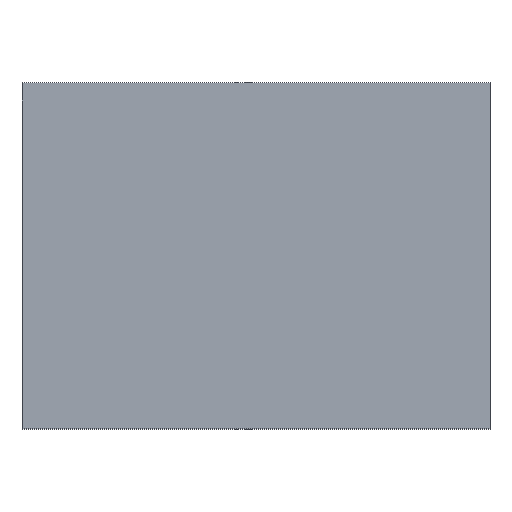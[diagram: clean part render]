
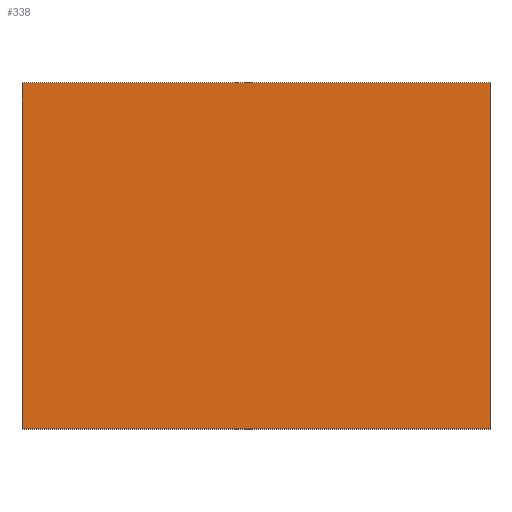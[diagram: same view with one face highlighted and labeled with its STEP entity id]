
A CAD part, top view. The second image highlights one B-rep face of the part: STEP entity #338.
In plain terms, the highlighted planar face has unit normal (0, 0, 1).
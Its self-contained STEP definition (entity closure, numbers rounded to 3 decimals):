
#24 = VERTEX_POINT('',#25);
#25 = CARTESIAN_POINT('',(629.5,0.5,-25.));
#32 = PLANE('',#33);
#33 = AXIS2_PLACEMENT_3D('',#34,#35,#36);
#34 = CARTESIAN_POINT('',(629.5,0.5,-30.));
#35 = DIRECTION('',(1.,0.,0.));
#36 = DIRECTION('',(0.,0.,1.));
#44 = PLANE('',#45);
#45 = AXIS2_PLACEMENT_3D('',#46,#47,#48);
#46 = CARTESIAN_POINT('',(629.5,0.5,-30.));
#47 = DIRECTION('',(0.,1.,0.));
#48 = DIRECTION('',(0.,0.,1.));
#85 = VERTEX_POINT('',#86);
#86 = CARTESIAN_POINT('',(629.5,17.5,-25.));
#100 = PLANE('',#101);
#101 = AXIS2_PLACEMENT_3D('',#102,#103,#104);
#102 = CARTESIAN_POINT('',(629.5,17.5,-30.));
#103 = DIRECTION('',(0.,1.,0.));
#104 = DIRECTION('',(0.,0.,1.));
#112 = EDGE_CURVE('',#24,#85,#113,.T.);
#113 = SURFACE_CURVE('',#114,(#118,#125),.PCURVE_S1.);
#114 = LINE('',#115,#116);
#115 = CARTESIAN_POINT('',(629.5,0.5,-25.));
#116 = VECTOR('',#117,1.);
#117 = DIRECTION('',(0.,1.,0.));
#118 = PCURVE('',#32,#119);
#119 = DEFINITIONAL_REPRESENTATION('',(#120),#124);
#120 = LINE('',#121,#122);
#121 = CARTESIAN_POINT('',(5.,0.));
#122 = VECTOR('',#123,1.);
#123 = DIRECTION('',(0.,-1.));
#124 = ( GEOMETRIC_REPRESENTATION_CONTEXT(2) 
PARAMETRIC_REPRESENTATION_CONTEXT() REPRESENTATION_CONTEXT('2D SPACE',''
  ) );
#125 = PCURVE('',#126,#131);
#126 = PLANE('',#127);
#127 = AXIS2_PLACEMENT_3D('',#128,#129,#130);
#128 = CARTESIAN_POINT('',(629.5,0.5,-25.));
#129 = DIRECTION('',(0.,0.,1.));
#130 = DIRECTION('',(1.,0.,0.));
#131 = DEFINITIONAL_REPRESENTATION('',(#132),#136);
#132 = LINE('',#133,#134);
#133 = CARTESIAN_POINT('',(0.,0.));
#134 = VECTOR('',#135,1.);
#135 = DIRECTION('',(0.,1.));
#136 = ( GEOMETRIC_REPRESENTATION_CONTEXT(2) 
PARAMETRIC_REPRESENTATION_CONTEXT() REPRESENTATION_CONTEXT('2D SPACE',''
  ) );
#144 = VERTEX_POINT('',#145);
#145 = CARTESIAN_POINT('',(652.5,0.5,-25.));
#152 = PLANE('',#153);
#153 = AXIS2_PLACEMENT_3D('',#154,#155,#156);
#154 = CARTESIAN_POINT('',(652.5,0.5,-30.));
#155 = DIRECTION('',(1.,0.,0.));
#156 = DIRECTION('',(0.,0.,1.));
#195 = VERTEX_POINT('',#196);
#196 = CARTESIAN_POINT('',(652.5,17.5,-25.));
#217 = EDGE_CURVE('',#144,#195,#218,.T.);
#218 = SURFACE_CURVE('',#219,(#223,#230),.PCURVE_S1.);
#219 = LINE('',#220,#221);
#220 = CARTESIAN_POINT('',(652.5,0.5,-25.));
#221 = VECTOR('',#222,1.);
#222 = DIRECTION('',(0.,1.,0.));
#223 = PCURVE('',#152,#224);
#224 = DEFINITIONAL_REPRESENTATION('',(#225),#229);
#225 = LINE('',#226,#227);
#226 = CARTESIAN_POINT('',(5.,0.));
#227 = VECTOR('',#228,1.);
#228 = DIRECTION('',(0.,-1.));
#229 = ( GEOMETRIC_REPRESENTATION_CONTEXT(2) 
PARAMETRIC_REPRESENTATION_CONTEXT() REPRESENTATION_CONTEXT('2D SPACE',''
  ) );
#230 = PCURVE('',#126,#231);
#231 = DEFINITIONAL_REPRESENTATION('',(#232),#236);
#232 = LINE('',#233,#234);
#233 = CARTESIAN_POINT('',(23.,0.));
#234 = VECTOR('',#235,1.);
#235 = DIRECTION('',(0.,1.));
#236 = ( GEOMETRIC_REPRESENTATION_CONTEXT(2) 
PARAMETRIC_REPRESENTATION_CONTEXT() REPRESENTATION_CONTEXT('2D SPACE',''
  ) );
#263 = EDGE_CURVE('',#24,#144,#264,.T.);
#264 = SURFACE_CURVE('',#265,(#269,#276),.PCURVE_S1.);
#265 = LINE('',#266,#267);
#266 = CARTESIAN_POINT('',(629.5,0.5,-25.));
#267 = VECTOR('',#268,1.);
#268 = DIRECTION('',(1.,0.,0.));
#269 = PCURVE('',#44,#270);
#270 = DEFINITIONAL_REPRESENTATION('',(#271),#275);
#271 = LINE('',#272,#273);
#272 = CARTESIAN_POINT('',(5.,0.));
#273 = VECTOR('',#274,1.);
#274 = DIRECTION('',(0.,1.));
#275 = ( GEOMETRIC_REPRESENTATION_CONTEXT(2) 
PARAMETRIC_REPRESENTATION_CONTEXT() REPRESENTATION_CONTEXT('2D SPACE',''
  ) );
#276 = PCURVE('',#126,#277);
#277 = DEFINITIONAL_REPRESENTATION('',(#278),#282);
#278 = LINE('',#279,#280);
#279 = CARTESIAN_POINT('',(0.,0.));
#280 = VECTOR('',#281,1.);
#281 = DIRECTION('',(1.,0.));
#282 = ( GEOMETRIC_REPRESENTATION_CONTEXT(2) 
PARAMETRIC_REPRESENTATION_CONTEXT() REPRESENTATION_CONTEXT('2D SPACE',''
  ) );
#310 = EDGE_CURVE('',#85,#195,#311,.T.);
#311 = SURFACE_CURVE('',#312,(#316,#323),.PCURVE_S1.);
#312 = LINE('',#313,#314);
#313 = CARTESIAN_POINT('',(629.5,17.5,-25.));
#314 = VECTOR('',#315,1.);
#315 = DIRECTION('',(1.,0.,0.));
#316 = PCURVE('',#100,#317);
#317 = DEFINITIONAL_REPRESENTATION('',(#318),#322);
#318 = LINE('',#319,#320);
#319 = CARTESIAN_POINT('',(5.,0.));
#320 = VECTOR('',#321,1.);
#321 = DIRECTION('',(0.,1.));
#322 = ( GEOMETRIC_REPRESENTATION_CONTEXT(2) 
PARAMETRIC_REPRESENTATION_CONTEXT() REPRESENTATION_CONTEXT('2D SPACE',''
  ) );
#323 = PCURVE('',#126,#324);
#324 = DEFINITIONAL_REPRESENTATION('',(#325),#329);
#325 = LINE('',#326,#327);
#326 = CARTESIAN_POINT('',(0.,17.));
#327 = VECTOR('',#328,1.);
#328 = DIRECTION('',(1.,0.));
#329 = ( GEOMETRIC_REPRESENTATION_CONTEXT(2) 
PARAMETRIC_REPRESENTATION_CONTEXT() REPRESENTATION_CONTEXT('2D SPACE',''
  ) );
#338 = ADVANCED_FACE('',(#339),#126,.T.);
#339 = FACE_BOUND('',#340,.T.);
#340 = EDGE_LOOP('',(#341,#342,#343,#344));
#341 = ORIENTED_EDGE('',*,*,#112,.F.);
#342 = ORIENTED_EDGE('',*,*,#263,.T.);
#343 = ORIENTED_EDGE('',*,*,#217,.T.);
#344 = ORIENTED_EDGE('',*,*,#310,.F.);
